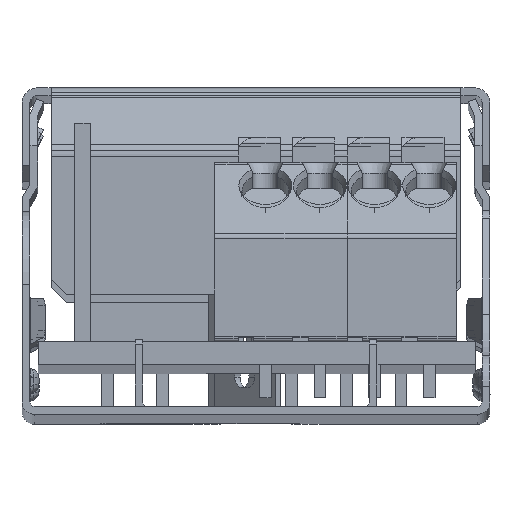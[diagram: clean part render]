
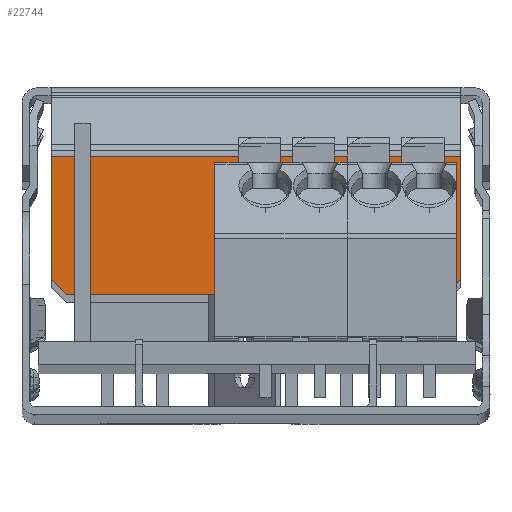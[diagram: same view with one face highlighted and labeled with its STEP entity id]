
A CAD part, top view. The second image highlights one B-rep face of the part: STEP entity #22744.
In plain terms, the highlighted planar face has unit normal (0, 0, 1).
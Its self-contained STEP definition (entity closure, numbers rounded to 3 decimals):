
#130 = DIRECTION ( 'NONE',  ( -1., 0., 0. ) ) ;
#214 = CARTESIAN_POINT ( 'NONE',  ( 217.12, 263.19, 517.991 ) ) ;
#1563 = VERTEX_POINT ( 'NONE', #214 ) ;
#1937 = EDGE_CURVE ( 'NONE', #1563, #12686, #7655, .T. ) ;
#4201 = EDGE_CURVE ( 'NONE', #33451, #26990, #30467, .T. ) ;
#5812 = DIRECTION ( 'NONE',  ( 0., -1., 0. ) ) ;
#6238 = CARTESIAN_POINT ( 'NONE',  ( 204.985, 272.073, 517.991 ) ) ;
#7655 = LINE ( 'NONE', #26384, #32730 ) ;
#7841 = VECTOR ( 'NONE', #13246, 1000. ) ;
#8478 = AXIS2_PLACEMENT_3D ( 'NONE', #28052, #21941, #34338 ) ;
#8624 = VERTEX_POINT ( 'NONE', #28744 ) ;
#9744 = EDGE_CURVE ( 'NONE', #22573, #26990, #15706, .T. ) ;
#10002 = LINE ( 'NONE', #17293, #7841 ) ;
#11899 = LINE ( 'NONE', #18401, #36200 ) ;
#12686 = VERTEX_POINT ( 'NONE', #35412 ) ;
#13226 = ORIENTED_EDGE ( 'NONE', *, *, #15051, .F. ) ;
#13246 = DIRECTION ( 'NONE',  ( -0.707, 0.707, 0. ) ) ;
#13367 = PLANE ( 'NONE',  #8478 ) ;
#14507 = DIRECTION ( 'NONE',  ( -0.707, -0.707, 0. ) ) ;
#14600 = ORIENTED_EDGE ( 'NONE', *, *, #27903, .F. ) ;
#15051 = EDGE_CURVE ( 'NONE', #8624, #1563, #26554, .T. ) ;
#15608 = FACE_OUTER_BOUND ( 'NONE', #28214, .T. ) ;
#15706 = LINE ( 'NONE', #18776, #40217 ) ;
#17257 = EDGE_CURVE ( 'NONE', #12686, #22573, #10002, .T. ) ;
#17293 = CARTESIAN_POINT ( 'NONE',  ( 191.829, 264.21, 517.991 ) ) ;
#18401 = CARTESIAN_POINT ( 'NONE',  ( 218.12, 267.632, 517.991 ) ) ;
#18406 = ORIENTED_EDGE ( 'NONE', *, *, #4201, .T. ) ;
#18776 = CARTESIAN_POINT ( 'NONE',  ( 191.849, 267.632, 517.991 ) ) ;
#19384 = DIRECTION ( 'NONE',  ( 0., 1., 0. ) ) ;
#21363 = ORIENTED_EDGE ( 'NONE', *, *, #9744, .F. ) ;
#21941 = DIRECTION ( 'NONE',  ( 0., 0., 1. ) ) ;
#22573 = VERTEX_POINT ( 'NONE', #29960 ) ;
#22744 = ADVANCED_FACE ( 'NONE', ( #15608 ), #13367, .T. ) ;
#26350 = CARTESIAN_POINT ( 'NONE',  ( 217.1, 263.17, 517.991 ) ) ;
#26384 = CARTESIAN_POINT ( 'NONE',  ( 204.985, 263.19, 517.991 ) ) ;
#26554 = LINE ( 'NONE', #26350, #36101 ) ;
#26990 = VERTEX_POINT ( 'NONE', #37652 ) ;
#27903 = EDGE_CURVE ( 'NONE', #33451, #8624, #11899, .T. ) ;
#28052 = CARTESIAN_POINT ( 'NONE',  ( 218.646, 272.466, 517.991 ) ) ;
#28214 = EDGE_LOOP ( 'NONE', ( #39728, #37872, #13226, #14600, #18406, #21363 ) ) ;
#28579 = CARTESIAN_POINT ( 'NONE',  ( 218.12, 272.073, 517.991 ) ) ;
#28744 = CARTESIAN_POINT ( 'NONE',  ( 218.12, 264.19, 517.991 ) ) ;
#29960 = CARTESIAN_POINT ( 'NONE',  ( 191.849, 264.19, 517.991 ) ) ;
#30467 = LINE ( 'NONE', #6238, #32105 ) ;
#32105 = VECTOR ( 'NONE', #130, 1000. ) ;
#32730 = VECTOR ( 'NONE', #38558, 1000. ) ;
#33451 = VERTEX_POINT ( 'NONE', #28579 ) ;
#34338 = DIRECTION ( 'NONE',  ( 1., 0., 0. ) ) ;
#35412 = CARTESIAN_POINT ( 'NONE',  ( 192.849, 263.19, 517.991 ) ) ;
#36101 = VECTOR ( 'NONE', #14507, 1000. ) ;
#36200 = VECTOR ( 'NONE', #5812, 1000. ) ;
#37652 = CARTESIAN_POINT ( 'NONE',  ( 191.849, 272.073, 517.991 ) ) ;
#37872 = ORIENTED_EDGE ( 'NONE', *, *, #1937, .F. ) ;
#38558 = DIRECTION ( 'NONE',  ( -1., 0., 0. ) ) ;
#39728 = ORIENTED_EDGE ( 'NONE', *, *, #17257, .F. ) ;
#40217 = VECTOR ( 'NONE', #19384, 1000. ) ;
